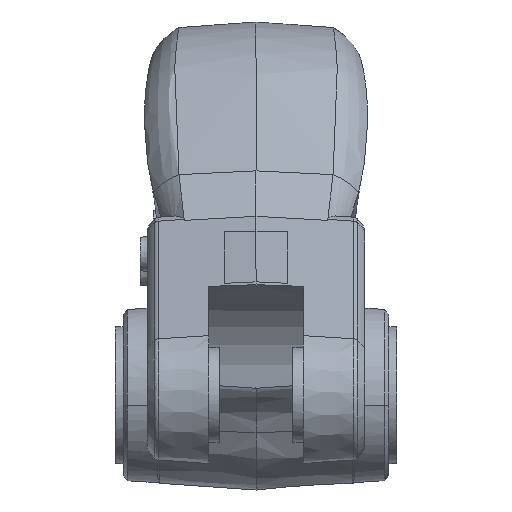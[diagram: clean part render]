
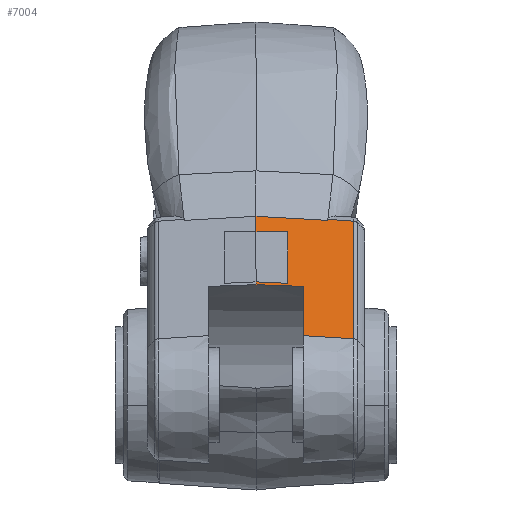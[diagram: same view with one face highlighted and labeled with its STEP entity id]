
A CAD part, left-side view. The second image highlights one B-rep face of the part: STEP entity #7004.
In plain terms, the highlighted planar face has unit normal (-0.491, -0.07, 0.868).
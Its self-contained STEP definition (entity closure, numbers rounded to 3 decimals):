
#358 = CARTESIAN_POINT ( 'NONE',  ( 145.31, 0., 2367.96 ) ) ;
#850 = DIRECTION ( 'NONE',  ( 0.87, 0., 0.492 ) ) ;
#1914 = EDGE_CURVE ( 'NONE', #9704, #8842, #2447, .T. ) ;
#2426 = ORIENTED_EDGE ( 'NONE', *, *, #9815, .F. ) ;
#2447 = LINE ( 'NONE', #13860, #29330 ) ;
#2512 = CARTESIAN_POINT ( 'NONE',  ( -33.015, -92.904, 2259.622 ) ) ;
#2663 = ORIENTED_EDGE ( 'NONE', *, *, #11313, .T. ) ;
#4777 = LINE ( 'NONE', #358, #54905 ) ;
#5021 = EDGE_CURVE ( 'NONE', #48766, #25860, #4777, .T. ) ;
#6259 = EDGE_CURVE ( 'NONE', #8842, #42192, #29809, .T. ) ;
#7004 = ADVANCED_FACE ( 'NONE', ( #53738 ), #27737, .T. ) ;
#7069 = CARTESIAN_POINT ( 'NONE',  ( -33.275, -76.772, 2260.77 ) ) ;
#7260 = CARTESIAN_POINT ( 'NONE',  ( -33.145, -84.838, 2260.196 ) ) ;
#8160 = DIRECTION ( 'NONE',  ( -0.87, 0., -0.492 ) ) ;
#8729 = CARTESIAN_POINT ( 'NONE',  ( -149.271, -45., 2197.707 ) ) ;
#8842 = VERTEX_POINT ( 'NONE', #16353 ) ;
#8853 = LINE ( 'NONE', #17344, #56863 ) ;
#9704 = VERTEX_POINT ( 'NONE', #58463 ) ;
#9729 = CARTESIAN_POINT ( 'NONE',  ( -146.148, -30., 2200.678 ) ) ;
#9815 = EDGE_CURVE ( 'NONE', #21843, #50293, #15323, .T. ) ;
#10114 = EDGE_CURVE ( 'NONE', #35727, #27581, #38804, .T. ) ;
#11175 = LINE ( 'NONE', #48945, #57751 ) ;
#11313 = EDGE_CURVE ( 'NONE', #42192, #48766, #13274, .T. ) ;
#11946 = B_SPLINE_CURVE_WITH_KNOTS ( 'NONE', 3,
 ( #22927, #41219, #19946, #33155 ),
 .UNSPECIFIED., .F., .F.,
 ( 4, 4 ),
 ( 0., 1. ),
 .UNSPECIFIED. ) ;
#12036 = VERTEX_POINT ( 'NONE', #43447 ) ;
#12437 = CARTESIAN_POINT ( 'NONE',  ( -33.015, -92.904, 2259.622 ) ) ;
#12934 = ORIENTED_EDGE ( 'NONE', *, *, #15109, .F. ) ;
#12974 = EDGE_CURVE ( 'NONE', #37985, #9704, #8853, .T. ) ;
#13274 = LINE ( 'NONE', #56111, #14018 ) ;
#13860 = CARTESIAN_POINT ( 'NONE',  ( -77.527, 0., 2241.906 ) ) ;
#14018 = VECTOR ( 'NONE', #20252, 1000. ) ;
#15109 = EDGE_CURVE ( 'NONE', #37985, #12036, #11175, .T. ) ;
#15323 = B_SPLINE_CURVE_WITH_KNOTS ( 'NONE', 3,
 ( #38420, #7069, #7260, #2512 ),
 .UNSPECIFIED., .F., .F.,
 ( 4, 4 ),
 ( 0.161, 0.186 ),
 .UNSPECIFIED. ) ;
#16353 = CARTESIAN_POINT ( 'NONE',  ( -79.176, -30., 2238.563 ) ) ;
#17084 = ORIENTED_EDGE ( 'NONE', *, *, #46815, .F. ) ;
#17344 = CARTESIAN_POINT ( 'NONE',  ( 145.31, 0., 2367.96 ) ) ;
#18187 = B_SPLINE_CURVE_WITH_KNOTS ( 'NONE', 3,
 ( #35944, #22784, #35560, #8729 ),
 .UNSPECIFIED., .F., .F.,
 ( 4, 4 ),
 ( 0., 1. ),
 .UNSPECIFIED. ) ;
#18877 = CARTESIAN_POINT ( 'NONE',  ( 145.31, 0., 2367.96 ) ) ;
#19194 = CARTESIAN_POINT ( 'NONE',  ( -230.282, -92.905, 2148.032 ) ) ;
#19266 = VECTOR ( 'NONE', #35541, 1000. ) ;
#19748 = VERTEX_POINT ( 'NONE', #54391 ) ;
#19751 = VECTOR ( 'NONE', #8160, 1000. ) ;
#19946 = CARTESIAN_POINT ( 'NONE',  ( -33.138, -92.905, 2259.552 ) ) ;
#20252 = DIRECTION ( 'NONE',  ( -0.064, 0.997, 0.044 ) ) ;
#20519 = ORIENTED_EDGE ( 'NONE', *, *, #32918, .T. ) ;
#21424 = VERTEX_POINT ( 'NONE', #56020 ) ;
#21804 = CARTESIAN_POINT ( 'NONE',  ( 146.343, -30., 2366.134 ) ) ;
#21843 = VERTEX_POINT ( 'NONE', #36412 ) ;
#22385 = DIRECTION ( 'NONE',  ( 0.034, -0.998, -0.061 ) ) ;
#22784 = CARTESIAN_POINT ( 'NONE',  ( -151.587, -14.822, 2198.821 ) ) ;
#22927 = CARTESIAN_POINT ( 'NONE',  ( -33.015, -92.904, 2259.622 ) ) ;
#23508 = DIRECTION ( 'NONE',  ( -0.87, 0., -0.492 ) ) ;
#24129 = EDGE_LOOP ( 'NONE', ( #33692, #2663, #38143, #34166, #20519, #34267, #52639, #17084, #2426, #37909, #12934, #25026, #52449 ) ) ;
#24149 = CARTESIAN_POINT ( 'NONE',  ( -148.082, 0., 2201.995 ) ) ;
#24264 = CARTESIAN_POINT ( 'NONE',  ( -35.182, -67.986, 2260.397 ) ) ;
#25026 = ORIENTED_EDGE ( 'NONE', *, *, #12974, .T. ) ;
#25860 = VERTEX_POINT ( 'NONE', #35268 ) ;
#27581 = VERTEX_POINT ( 'NONE', #58282 ) ;
#27737 = PLANE ( 'NONE',  #43294 ) ;
#28131 = DIRECTION ( 'NONE',  ( -0.491, -0.07, 0.868 ) ) ;
#29330 = VECTOR ( 'NONE', #50332, 1000. ) ;
#29809 = LINE ( 'NONE', #21804, #19266 ) ;
#30548 = LINE ( 'NONE', #54283, #43913 ) ;
#30947 = EDGE_CURVE ( 'NONE', #25860, #19748, #18187, .T. ) ;
#31451 = CARTESIAN_POINT ( 'NONE',  ( 146.86, -45., 2365.221 ) ) ;
#32035 = B_SPLINE_CURVE_WITH_KNOTS ( 'NONE', 3,
 ( #46695, #55773, #37210, #24264 ),
 .UNSPECIFIED., .F., .F.,
 ( 4, 4 ),
 ( 0., 1. ),
 .UNSPECIFIED. ) ;
#32918 = EDGE_CURVE ( 'NONE', #19748, #21424, #37282, .T. ) ;
#33155 = CARTESIAN_POINT ( 'NONE',  ( -33.199, -92.905, 2259.517 ) ) ;
#33692 = ORIENTED_EDGE ( 'NONE', *, *, #6259, .T. ) ;
#34166 = ORIENTED_EDGE ( 'NONE', *, *, #30947, .T. ) ;
#34267 = ORIENTED_EDGE ( 'NONE', *, *, #52707, .T. ) ;
#35268 = CARTESIAN_POINT ( 'NONE',  ( -152.759, 0., 2199.349 ) ) ;
#35541 = DIRECTION ( 'NONE',  ( -0.87, 0., -0.492 ) ) ;
#35560 = CARTESIAN_POINT ( 'NONE',  ( -150.425, -29.822, 2198.273 ) ) ;
#35698 = DIRECTION ( 'NONE',  ( 0.043, -0.998, -0.056 ) ) ;
#35727 = VERTEX_POINT ( 'NONE', #19194 ) ;
#35944 = CARTESIAN_POINT ( 'NONE',  ( -152.759, 0., 2199.349 ) ) ;
#36412 = CARTESIAN_POINT ( 'NONE',  ( -33.405, -68.706, 2261.345 ) ) ;
#37210 = CARTESIAN_POINT ( 'NONE',  ( -34.594, -68.222, 2260.711 ) ) ;
#37282 = LINE ( 'NONE', #31451, #19751 ) ;
#37909 = ORIENTED_EDGE ( 'NONE', *, *, #55531, .T. ) ;
#37985 = VERTEX_POINT ( 'NONE', #38982 ) ;
#38143 = ORIENTED_EDGE ( 'NONE', *, *, #5021, .T. ) ;
#38420 = CARTESIAN_POINT ( 'NONE',  ( -33.405, -68.706, 2261.345 ) ) ;
#38804 = LINE ( 'NONE', #47689, #39545 ) ;
#38982 = CARTESIAN_POINT ( 'NONE',  ( -38.086, 0., 2264.217 ) ) ;
#39545 = VECTOR ( 'NONE', #48074, 1000. ) ;
#41219 = CARTESIAN_POINT ( 'NONE',  ( -33.076, -92.904, 2259.587 ) ) ;
#42192 = VERTEX_POINT ( 'NONE', #9729 ) ;
#43294 = AXIS2_PLACEMENT_3D ( 'NONE', #18877, #28131, #850 ) ;
#43447 = CARTESIAN_POINT ( 'NONE',  ( -35.182, -67.986, 2260.397 ) ) ;
#43913 = VECTOR ( 'NONE', #22385, 1000. ) ;
#44915 = DIRECTION ( 'NONE',  ( -0.87, 0., -0.492 ) ) ;
#46695 = CARTESIAN_POINT ( 'NONE',  ( -33.405, -68.706, 2261.345 ) ) ;
#46815 = EDGE_CURVE ( 'NONE', #50293, #27581, #11946, .T. ) ;
#47689 = CARTESIAN_POINT ( 'NONE',  ( 148.509, -92.905, 2362.305 ) ) ;
#48074 = DIRECTION ( 'NONE',  ( 0.87, 0., 0.492 ) ) ;
#48766 = VERTEX_POINT ( 'NONE', #24149 ) ;
#48945 = CARTESIAN_POINT ( 'NONE',  ( -38.086, 0., 2264.217 ) ) ;
#50293 = VERTEX_POINT ( 'NONE', #12437 ) ;
#50332 = DIRECTION ( 'NONE',  ( -0.055, -0.992, -0.111 ) ) ;
#52449 = ORIENTED_EDGE ( 'NONE', *, *, #1914, .T. ) ;
#52639 = ORIENTED_EDGE ( 'NONE', *, *, #10114, .T. ) ;
#52707 = EDGE_CURVE ( 'NONE', #21424, #35727, #30548, .T. ) ;
#53738 = FACE_OUTER_BOUND ( 'NONE', #24129, .T. ) ;
#54283 = CARTESIAN_POINT ( 'NONE',  ( -233.48, 0., 2153.687 ) ) ;
#54391 = CARTESIAN_POINT ( 'NONE',  ( -149.271, -45., 2197.707 ) ) ;
#54905 = VECTOR ( 'NONE', #23508, 1000. ) ;
#55531 = EDGE_CURVE ( 'NONE', #21843, #12036, #32035, .T. ) ;
#55773 = CARTESIAN_POINT ( 'NONE',  ( -34.002, -68.462, 2261.027 ) ) ;
#56020 = CARTESIAN_POINT ( 'NONE',  ( -231.931, -45., 2150.948 ) ) ;
#56111 = CARTESIAN_POINT ( 'NONE',  ( -146.148, -30., 2200.678 ) ) ;
#56863 = VECTOR ( 'NONE', #44915, 1000. ) ;
#57751 = VECTOR ( 'NONE', #35698, 1000. ) ;
#58282 = CARTESIAN_POINT ( 'NONE',  ( -33.199, -92.905, 2259.517 ) ) ;
#58463 = CARTESIAN_POINT ( 'NONE',  ( -77.527, 0., 2241.906 ) ) ;
